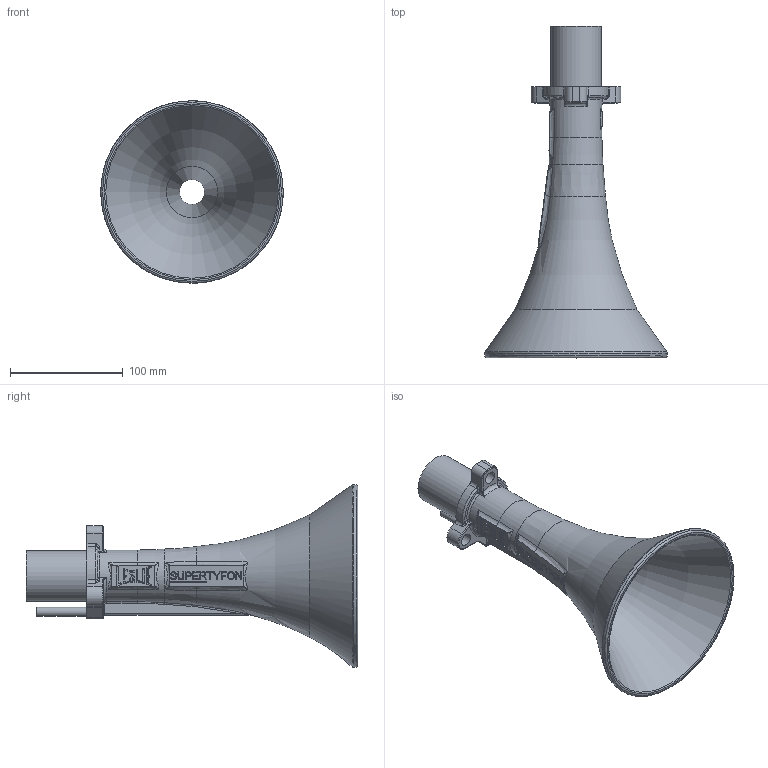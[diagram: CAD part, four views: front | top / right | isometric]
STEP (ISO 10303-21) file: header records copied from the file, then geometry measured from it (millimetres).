
FILE_DESCRIPTION(/* description */ (''),/* implementation_level */ '2;1');
FILE_NAME(/* name */ 'E:/hidden/Engineering Projects/Leslie Controls SuperTyfon/CAD/Components/27582 #44 Horn, Complete.step',/* time_stamp */ '2022-08-18T19:38:37+10:00',/* author */ (''),/* organization */ (''),/* preprocessor_version */ 'ST-DEVELOPER v19',/* originating_system */ 'Autodesk Translation Framework v11.7.0.108',/* authorisation */ '');
FILE_SCHEMA (('AUTOMOTIVE_DESIGN { 1 0 10303 214 3 1 1 }'));
Length unit declared in the file: inch
Products named in the file (3): #21926; #21927; #21928
Assembly tree (2 placements, depth 2):
  #21926
    #21927
    #21928
Bounding box: 161.93 x 294.48 x 161.93 mm (x, y, z)
Volume: 308632.5 mm3; surface area: 141244.3 mm2
Topology: 2 solids, 2 shells, 531 faces, 1429 edges, 907 vertices
Faces by surface type: plane 218, bspline 171, cone 58, cylinder 54, torus 26, sphere 4
Full cylindrical faces by diameter (mm): 1.984 x1, 6.35 x1, 7.938 x1, 7.987 x1, 11.112 x3, 44.45 x1, 161.925 x1
Entity records: 21940 total; most frequent: CARTESIAN_POINT 9831, ORIENTED_EDGE 2812, DIRECTION 1958, EDGE_CURVE 1406, VERTEX_POINT 907, LINE 672, VECTOR 672, AXIS2_PLACEMENT_3D 643
